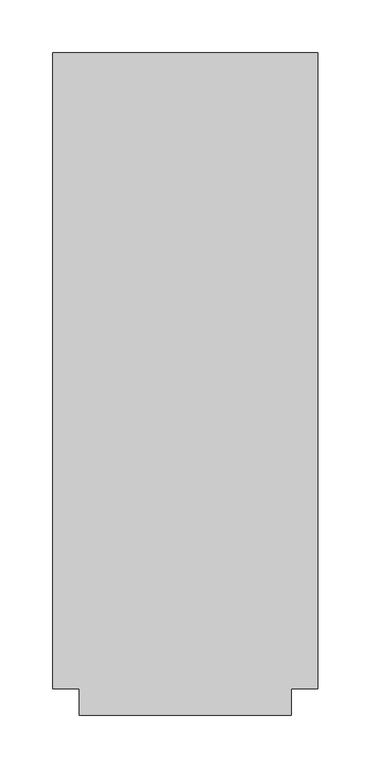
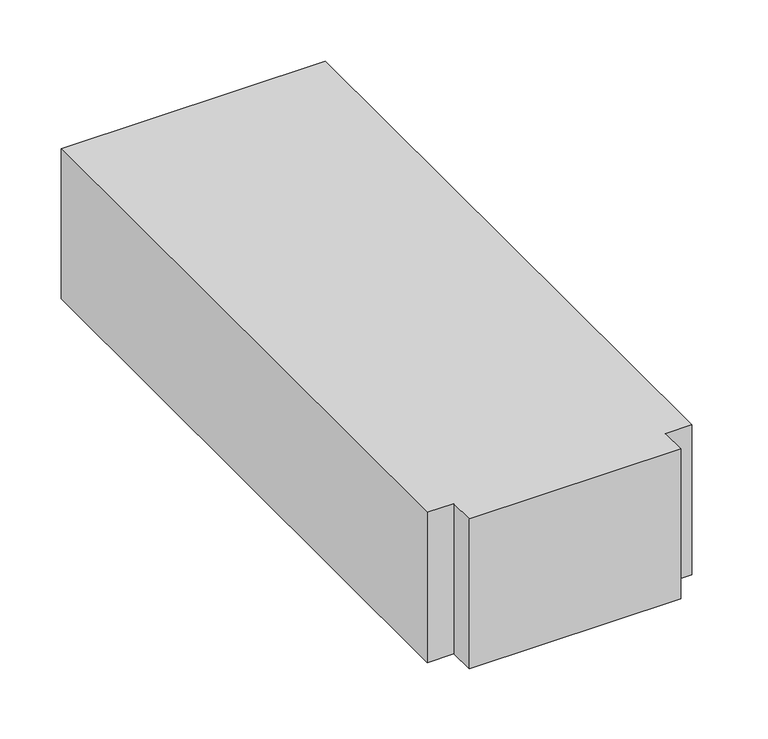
"""IFC4 building model written with IfcOpenShell, lengths in millimetres: duct fitting geometry, M_Te rectangular : Estándar."""

from ifc_helpers import new_model, si_unit, frame, origin, place, context, project, spatial, polyline, outline, extrude, source, transform, mapped, element, save


def duct_fitting_6e0a0ec4(model_context):
    return source(origin(), model_context, "Body", "SweptSolid", [
        extrude(outline(polyline([(-125.0, -300.0), (-125.0, 300.0), (125.0, 300.0), (125.0, -300.0), (100.0, -300.0), (100.0, -325.0), (-100.0, -325.0), (-100.0, -300.0), (-125.0, -300.0)])), frame((0.0, 0.0, -75.0), z_axis=(0.0, 0.0, 1.0), x_axis=(1.0, 0.0, 0.0)), (0.0, 0.0, 1.0), 150.0),
    ])


if __name__ == "__main__":
    model = new_model("IFC4")
    model_context = context("Model", 3, world=origin())
    ifc_project = project(units=[si_unit("LENGTHUNIT", "METRE", prefix="MILLI")], contexts=[model_context])
    site = spatial("IfcSite", under=ifc_project)
    building = spatial("IfcBuilding", under=site)
    placement = place(None, origin())
    duct_fitting_shape = duct_fitting_6e0a0ec4(model_context)
    element("IfcDuctFitting", 1, ObjectType="M_Te rectangular : Estándar", at=placement, inside=building, context=model_context, shape_type="MappedRepresentation", body=[
        mapped(duct_fitting_shape, transform((0.0, 0.0, 0.0), x_axis=(1.0, 0.0, 0.0), y_axis=(0.0, 1.0, 0.0), z_axis=(0.0, 0.0, 1.0))),
    ])
    save(model, "model.ifc")
